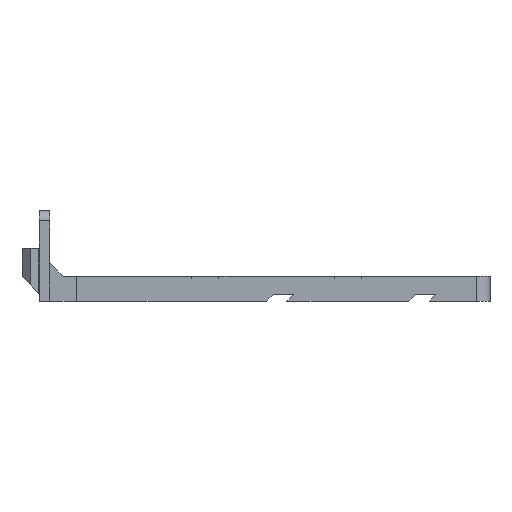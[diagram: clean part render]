
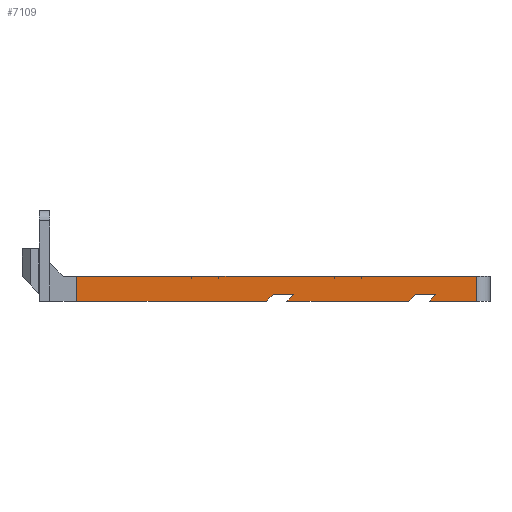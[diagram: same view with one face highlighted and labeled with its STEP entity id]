
A CAD part, front view. The second image highlights one B-rep face of the part: STEP entity #7109.
In plain terms, the highlighted planar face has unit normal (0, -1, 0).
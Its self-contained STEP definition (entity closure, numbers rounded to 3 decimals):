
#309=PLANE('',#7822);
#747=FACE_OUTER_BOUND('',#1203,.T.);
#1203=EDGE_LOOP('',(#6202,#6203,#6204,#6205,#6206,#6207,#6208,#6209,#6210,
#6211,#6212,#6213,#6214,#6215,#6216,#6217,#6218,#6219,#6220,#6221));
#1282=LINE('',#10149,#2014);
#1287=LINE('',#10166,#2019);
#1291=LINE('',#10173,#2023);
#1294=LINE('',#10179,#2026);
#1297=LINE('',#10189,#2029);
#1298=LINE('',#10194,#2030);
#1300=LINE('',#10203,#2032);
#1449=LINE('',#10633,#2181);
#1459=LINE('',#10656,#2191);
#1496=LINE('',#10742,#2228);
#1499=LINE('',#10747,#2231);
#1501=LINE('',#10751,#2233);
#1502=LINE('',#10753,#2234);
#1503=LINE('',#10759,#2235);
#1645=LINE('',#11180,#2377);
#1707=LINE('',#11339,#2439);
#1711=LINE('',#11358,#2443);
#1848=LINE('',#11760,#2580);
#1858=LINE('',#11780,#2590);
#1859=LINE('',#11782,#2591);
#2014=VECTOR('',#7944,10.);
#2019=VECTOR('',#7957,10.);
#2023=VECTOR('',#7963,10.);
#2026=VECTOR('',#7968,10.);
#2029=VECTOR('',#7977,10.);
#2030=VECTOR('',#7982,10.);
#2032=VECTOR('',#7994,10.);
#2181=VECTOR('',#8465,10.);
#2191=VECTOR('',#8489,10.);
#2228=VECTOR('',#8580,10.);
#2231=VECTOR('',#8585,10.);
#2233=VECTOR('',#8589,10.);
#2234=VECTOR('',#8592,10.);
#2235=VECTOR('',#8597,10.);
#2377=VECTOR('',#9071,10.);
#2439=VECTOR('',#9247,10.);
#2443=VECTOR('',#9273,10.);
#2580=VECTOR('',#9732,10.);
#2590=VECTOR('',#9762,10.);
#2591=VECTOR('',#9765,10.);
#3023=VERTEX_POINT('',#10142);
#3026=VERTEX_POINT('',#10147);
#3033=VERTEX_POINT('',#10163);
#3034=VERTEX_POINT('',#10165);
#3036=VERTEX_POINT('',#10171);
#3038=VERTEX_POINT('',#10177);
#3042=VERTEX_POINT('',#10187);
#3043=VERTEX_POINT('',#10191);
#3044=VERTEX_POINT('',#10193);
#3166=VERTEX_POINT('',#10631);
#3193=VERTEX_POINT('',#10739);
#3194=VERTEX_POINT('',#10741);
#3195=VERTEX_POINT('',#10745);
#3196=VERTEX_POINT('',#10749);
#3198=VERTEX_POINT('',#10756);
#3199=VERTEX_POINT('',#10758);
#3347=VERTEX_POINT('',#11321);
#3352=VERTEX_POINT('',#11337);
#3356=VERTEX_POINT('',#11356);
#3460=VERTEX_POINT('',#11758);
#3586=EDGE_CURVE('',#3026,#3023,#1282,.T.);
#3593=EDGE_CURVE('',#3034,#3033,#1287,.T.);
#3597=EDGE_CURVE('',#3033,#3036,#1291,.T.);
#3600=EDGE_CURVE('',#3036,#3038,#1294,.T.);
#3605=EDGE_CURVE('',#3042,#3038,#1297,.T.);
#3607=EDGE_CURVE('',#3044,#3043,#1298,.T.);
#3612=EDGE_CURVE('',#3023,#3043,#1300,.T.);
#3827=EDGE_CURVE('',#3166,#3042,#1449,.T.);
#3839=EDGE_CURVE('',#3166,#3044,#1459,.F.);
#3882=EDGE_CURVE('',#3194,#3193,#1496,.T.);
#3885=EDGE_CURVE('',#3193,#3195,#1499,.T.);
#3887=EDGE_CURVE('',#3195,#3196,#1501,.T.);
#3888=EDGE_CURVE('',#3034,#3196,#1502,.T.);
#3890=EDGE_CURVE('',#3199,#3198,#1503,.T.);
#4101=EDGE_CURVE('',#3026,#3199,#1645,.F.);
#4181=EDGE_CURVE('',#3347,#3352,#1707,.F.);
#4191=EDGE_CURVE('',#3352,#3356,#1711,.T.);
#4392=EDGE_CURVE('',#3347,#3460,#1848,.T.);
#4402=EDGE_CURVE('',#3460,#3198,#1858,.T.);
#4403=EDGE_CURVE('',#3194,#3356,#1859,.T.);
#6202=ORIENTED_EDGE('',*,*,#4402,.F.);
#6203=ORIENTED_EDGE('',*,*,#4392,.F.);
#6204=ORIENTED_EDGE('',*,*,#4181,.T.);
#6205=ORIENTED_EDGE('',*,*,#4191,.T.);
#6206=ORIENTED_EDGE('',*,*,#4403,.F.);
#6207=ORIENTED_EDGE('',*,*,#3882,.T.);
#6208=ORIENTED_EDGE('',*,*,#3885,.T.);
#6209=ORIENTED_EDGE('',*,*,#3887,.T.);
#6210=ORIENTED_EDGE('',*,*,#3888,.F.);
#6211=ORIENTED_EDGE('',*,*,#3593,.T.);
#6212=ORIENTED_EDGE('',*,*,#3597,.T.);
#6213=ORIENTED_EDGE('',*,*,#3600,.T.);
#6214=ORIENTED_EDGE('',*,*,#3605,.F.);
#6215=ORIENTED_EDGE('',*,*,#3827,.F.);
#6216=ORIENTED_EDGE('',*,*,#3839,.T.);
#6217=ORIENTED_EDGE('',*,*,#3607,.T.);
#6218=ORIENTED_EDGE('',*,*,#3612,.F.);
#6219=ORIENTED_EDGE('',*,*,#3586,.F.);
#6220=ORIENTED_EDGE('',*,*,#4101,.T.);
#6221=ORIENTED_EDGE('',*,*,#3890,.T.);
#7109=ADVANCED_FACE('',(#747),#309,.T.);
#7822=AXIS2_PLACEMENT_3D('',#11781,#9763,#9764);
#7944=DIRECTION('',(0.,0.,-1.));
#7957=DIRECTION('',(0.707,0.,0.707));
#7963=DIRECTION('',(1.,0.,0.));
#7968=DIRECTION('',(-0.707,0.,-0.707));
#7977=DIRECTION('',(-1.,0.,0.));
#7982=DIRECTION('',(0.,0.,-1.));
#7994=DIRECTION('',(1.,0.,0.));
#8465=DIRECTION('',(0.,0.,-1.));
#8489=DIRECTION('',(1.,0.,0.));
#8580=DIRECTION('',(0.707,0.,0.707));
#8585=DIRECTION('',(1.,0.,0.));
#8589=DIRECTION('',(-0.707,0.,-0.707));
#8592=DIRECTION('',(-1.,0.,0.));
#8597=DIRECTION('',(0.,0.,-1.));
#9071=DIRECTION('',(1.,0.,0.));
#9247=DIRECTION('',(1.,0.,0.));
#9273=DIRECTION('',(0.,0.,-1.));
#9732=DIRECTION('',(0.,0.,-1.));
#9762=DIRECTION('',(1.,0.,0.));
#9763=DIRECTION('center_axis',(0.,-1.,0.));
#9764=DIRECTION('ref_axis',(1.,0.,0.));
#9765=DIRECTION('',(-1.,0.,0.));
#10142=CARTESIAN_POINT('',(183.15,-21.,-107.078));
#10147=CARTESIAN_POINT('',(183.15,-21.,-107.078));
#10149=CARTESIAN_POINT('',(183.15,-21.,-111.724));
#10163=CARTESIAN_POINT('',(207.172,-21.,-112.478));
#10165=CARTESIAN_POINT('',(205.172,-21.,-114.478));
#10166=CARTESIAN_POINT('',(191.055,-21.,-128.595));
#10171=CARTESIAN_POINT('',(213.172,-21.,-112.478));
#10173=CARTESIAN_POINT('',(176.361,-21.,-112.478));
#10177=CARTESIAN_POINT('',(211.172,-21.,-114.478));
#10179=CARTESIAN_POINT('',(196.555,-21.,-129.095));
#10187=CARTESIAN_POINT('',(225.15,-21.,-114.478));
#10189=CARTESIAN_POINT('',(132.9,-21.,-114.478));
#10191=CARTESIAN_POINT('',(191.15,-21.,-107.078));
#10193=CARTESIAN_POINT('',(191.15,-21.,-107.078));
#10194=CARTESIAN_POINT('',(191.15,-21.,-111.724));
#10203=CARTESIAN_POINT('',(205.572,-21.,-107.078));
#10631=CARTESIAN_POINT('',(225.15,-21.,-107.078));
#10633=CARTESIAN_POINT('',(225.15,-21.,-111.724));
#10656=CARTESIAN_POINT('',(206.15,-21.,-107.078));
#10739=CARTESIAN_POINT('',(165.172,-21.,-112.478));
#10741=CARTESIAN_POINT('',(163.172,-21.,-114.478));
#10742=CARTESIAN_POINT('',(149.055,-21.,-128.595));
#10745=CARTESIAN_POINT('',(171.172,-21.,-112.478));
#10747=CARTESIAN_POINT('',(134.361,-21.,-112.478));
#10749=CARTESIAN_POINT('',(169.172,-21.,-114.478));
#10751=CARTESIAN_POINT('',(154.555,-21.,-129.095));
#10753=CARTESIAN_POINT('',(225.15,-21.,-114.478));
#10756=CARTESIAN_POINT('',(149.15,-21.,-107.078));
#10758=CARTESIAN_POINT('',(149.15,-21.,-107.078));
#10759=CARTESIAN_POINT('',(149.15,-21.,-111.724));
#11180=CARTESIAN_POINT('',(164.15,-21.,-107.078));
#11321=CARTESIAN_POINT('',(141.15,-21.,-107.078));
#11337=CARTESIAN_POINT('',(107.15,-21.,-107.078));
#11339=CARTESIAN_POINT('',(122.15,-21.,-107.078));
#11356=CARTESIAN_POINT('',(107.15,-21.,-114.478));
#11358=CARTESIAN_POINT('',(107.15,-21.,-111.724));
#11758=CARTESIAN_POINT('',(141.15,-21.,-107.078));
#11760=CARTESIAN_POINT('',(141.15,-21.,-111.724));
#11780=CARTESIAN_POINT('',(183.15,-21.,-107.078));
#11781=CARTESIAN_POINT('Origin',(103.15,-21.,-111.724));
#11782=CARTESIAN_POINT('',(183.15,-21.,-114.478));
